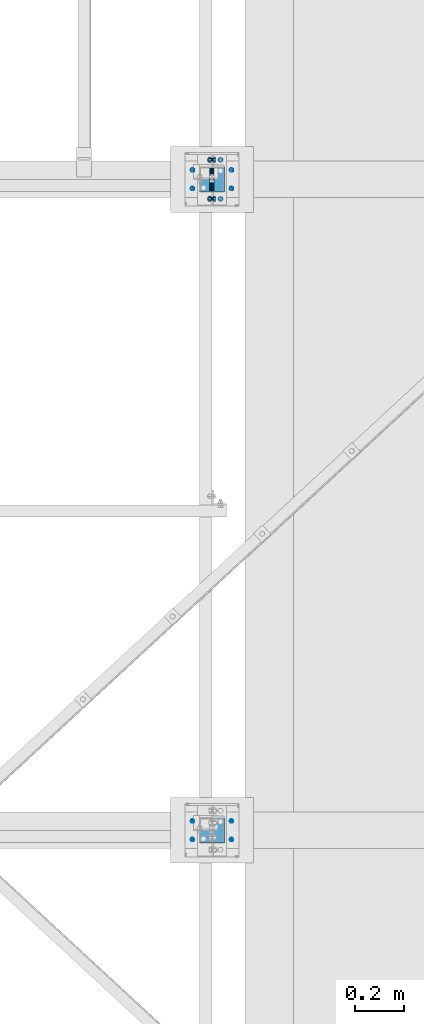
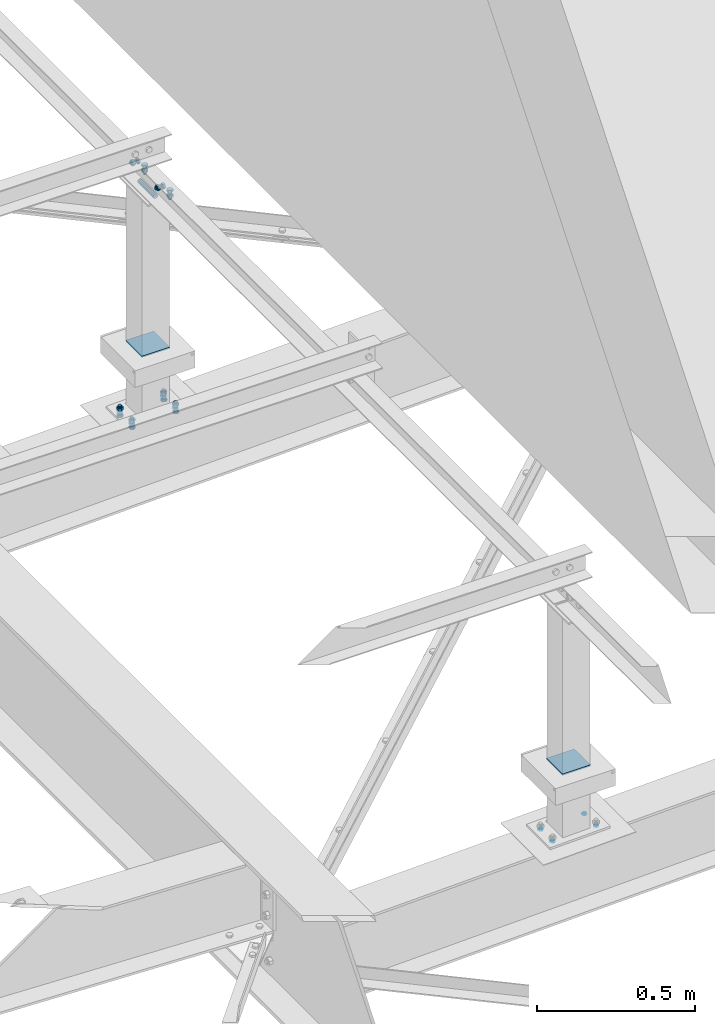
# One storey, part 180 of 3134: 8 mechanical fasteners, 6 elements without a shape of their own.
"""IFC2X3 building model written with IfcOpenShell, lengths in millimetres."""

from ifc_helpers import new_model, si_unit, frame, origin_with_axes, place, context, subcontext, project, spatial, faceted_brep, source, transform, mapped, material, type_object, element, aggregate, save


model = new_model("IFC2X3")

# Units and contexts
model_context = context("Model", 3, precision=1e-05, world=origin_with_axes())
body_context = subcontext(model_context, "Body", "Model", "MODEL_VIEW")
ifc_project = project(units=[si_unit("LENGTHUNIT", "METRE", prefix="MILLI"), si_unit("AREAUNIT", "SQUARE_METRE"), si_unit("VOLUMEUNIT", "CUBIC_METRE"), si_unit("MASSUNIT", "GRAM", prefix="KILO"), si_unit("TIMEUNIT", "SECOND"), si_unit("PLANEANGLEUNIT", "RADIAN"), si_unit("SOLIDANGLEUNIT", "STERADIAN"), si_unit("THERMODYNAMICTEMPERATUREUNIT", "DEGREE_CELSIUS"), si_unit("LUMINOUSINTENSITYUNIT", "LUMEN")], contexts=[model_context])

# Site, building, storey
site_placement = place(None, origin_with_axes())
site = spatial("IfcSite", under=ifc_project, at=site_placement, CompositionType="ELEMENT")
building_placement = place(site_placement, origin_with_axes())
building = spatial("IfcBuilding", under=site, at=building_placement, Name="Undefined", CompositionType="ELEMENT")
storey_placement = place(building_placement, origin_with_axes())
storey = spatial("IfcBuildingStorey", under=building, at=storey_placement, Name="Undefined", CompositionType="ELEMENT", Elevation=0.0)

# Assembly, mechanical fastener
assembly_1_placement = place(storey_placement, origin_with_axes())
assembly_1 = element("IfcElementAssembly", 1, at=assembly_1_placement, inside=storey, AssemblyPlace="NOTDEFINED", PredefinedType="RIGID_FRAME")
ifc_material_1 = material(Name="8.8")
mechanical_fastener_type = type_object("IfcMechanicalFastenerType", Name="Bolt assembly")
shared_shape_1 = source(origin_with_axes(), body_context, "Body", "Brep", [
    faceted_brep([(10.9696551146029, -14.0, 0.0), (5.48482755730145, -14.0, 9.5), (-5.48482755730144, -14.0, 9.5), (-10.9696551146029, -14.0, 1.34339530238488e-15), (-5.48482755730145, -14.0, -9.5), (5.48482755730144, -14.0, -9.50000000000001), (5.48482755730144, -6.0, -9.50000000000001), (-5.48482755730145, -6.0, -9.5), (-10.9696551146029, -6.0, 1.34339530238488e-15), (-5.48482755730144, -6.0, 9.5), (5.48482755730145, -6.0, 9.5), (10.9696551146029, -6.0, 0.0), (6.0, -6.0, 0.0), (5.19615242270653, -6.0, 3.00000000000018), (2.99999999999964, -6.0, 5.19615242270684), (-6.21801588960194e-13, -6.0, 6.0), (-3.00000000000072, -6.0, 5.19615242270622), (-5.19615242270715, -6.0, 2.9999999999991), (-6.0, -6.0, -1.24360317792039e-12), (-5.19615242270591, -6.0, -3.00000000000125), (-2.99999999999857, -6.0, -5.19615242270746), (1.85874342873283e-12, -6.0, -6.0), (3.00000000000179, -6.0, -5.1961524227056), (5.19615242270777, -6.0, -2.99999999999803), (5.19615242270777, 24.0, -2.99999999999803), (3.00000000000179, 24.0, -5.1961524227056), (1.85874342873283e-12, 24.0, -6.0), (-2.99999999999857, 24.0, -5.19615242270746), (-5.19615242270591, 24.0, -3.00000000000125), (-6.0, 24.0, -1.24360317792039e-12), (-5.19615242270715, 24.0, 2.9999999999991), (-3.00000000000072, 24.0, 5.19615242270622), (-6.21801588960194e-13, 24.0, 6.0), (2.99999999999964, 24.0, 5.19615242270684), (5.19615242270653, 24.0, 3.00000000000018), (6.0, 24.0, 0.0), (10.9696551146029, 6.00000000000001, 0.0), (5.48482755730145, 6.00000000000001, 9.5), (-5.48482755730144, 6.00000000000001, 9.5), (-10.9696551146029, 6.00000000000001, 1.34339530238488e-15), (-5.48482755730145, 6.00000000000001, -9.5), (5.48482755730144, 6.00000000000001, -9.50000000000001), (5.48482755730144, 16.0, -9.50000000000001), (-5.48482755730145, 16.0, -9.5), (-10.9696551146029, 16.0, 1.34339530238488e-15), (-5.48482755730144, 16.0, 9.5), (5.48482755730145, 16.0, 9.5), (10.9696551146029, 16.0, 0.0)], [[[0, 1, 2, 3, 4, 5]], [[6, 7, 8, 9, 10, 11]], [[0, 11, 10, 1]], [[1, 10, 9, 2]], [[2, 9, 8, 3]], [[3, 8, 7, 4]], [[4, 7, 6, 5]], [[5, 6, 11, 0]], [[12, 13, 14, 15, 16, 17, 18, 19, 20, 21, 22, 23]], [[24, 25, 26, 27, 28, 29, 30, 31, 32, 33, 34, 35]], [[12, 35, 34, 13]], [[13, 34, 33, 14]], [[14, 33, 32, 15]], [[15, 32, 31, 16]], [[16, 31, 30, 17]], [[17, 30, 29, 18]], [[18, 29, 28, 19]], [[19, 28, 27, 20]], [[20, 27, 26, 21]], [[21, 26, 25, 22]], [[22, 25, 24, 23]], [[23, 24, 35, 12]], [[36, 37, 38, 39, 40, 41]], [[42, 43, 44, 45, 46, 47]], [[36, 47, 46, 37]], [[37, 46, 45, 38]], [[38, 45, 44, 39]], [[39, 44, 43, 40]], [[40, 43, 42, 41]], [[41, 42, 47, 36]]]),
    faceted_brep([(7.0, -5.9, 0.0), (6.06217782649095, -5.9, 3.50000000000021), (3.49999999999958, -5.9, 6.06217782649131), (-7.25435187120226e-13, -5.9, 7.0), (-3.50000000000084, -5.9, 6.06217782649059), (-6.06217782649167, -5.9, 3.49999999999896), (-7.0, -5.9, -1.45087037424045e-12), (-6.06217782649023, -5.9, -3.50000000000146), (-3.49999999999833, -5.9, -6.06217782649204), (2.1685340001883e-12, -5.9, -7.0), (3.50000000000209, -5.9, -6.06217782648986), (6.0621778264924, -5.9, -3.4999999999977), (6.0621778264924, 0.0999999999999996, -3.4999999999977), (3.50000000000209, 0.0999999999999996, -6.06217782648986), (2.1685340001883e-12, 0.0999999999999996, -7.0), (-3.49999999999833, 0.0999999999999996, -6.06217782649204), (-6.06217782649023, 0.0999999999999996, -3.50000000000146), (-7.0, 0.0999999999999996, -1.45087037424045e-12), (-6.06217782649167, 0.0999999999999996, 3.49999999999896), (-3.50000000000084, 0.0999999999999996, 6.06217782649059), (-7.25435187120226e-13, 0.0999999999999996, 7.0), (3.49999999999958, 0.0999999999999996, 6.06217782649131), (6.06217782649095, 0.0999999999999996, 3.50000000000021), (7.0, 0.0999999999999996, 0.0), (7.0, -0.1, 0.0), (6.06217782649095, -0.1, 3.50000000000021), (3.49999999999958, -0.1, 6.06217782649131), (-7.25435187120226e-13, -0.1, 7.0), (-3.50000000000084, -0.1, 6.06217782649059), (-6.06217782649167, -0.1, 3.49999999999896), (-7.0, -0.1, -1.45087037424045e-12), (-6.06217782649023, -0.1, -3.50000000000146), (-3.49999999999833, -0.1, -6.06217782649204), (2.1685340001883e-12, -0.1, -7.0), (3.50000000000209, -0.1, -6.06217782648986), (6.0621778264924, -0.1, -3.4999999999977), (6.0621778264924, 6.00000000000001, -3.4999999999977), (3.50000000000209, 6.00000000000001, -6.06217782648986), (2.1685340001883e-12, 6.00000000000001, -7.0), (-3.49999999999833, 6.00000000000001, -6.06217782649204), (-6.06217782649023, 6.00000000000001, -3.50000000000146), (-7.0, 6.00000000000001, -1.45087037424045e-12), (-6.06217782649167, 6.00000000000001, 3.49999999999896), (-3.50000000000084, 6.00000000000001, 6.06217782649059), (-7.25435187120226e-13, 6.00000000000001, 7.0), (3.49999999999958, 6.00000000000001, 6.06217782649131), (6.06217782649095, 6.00000000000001, 3.50000000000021), (7.0, 6.00000000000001, 0.0)], [[[0, 1, 2, 3, 4, 5, 6, 7, 8, 9, 10, 11]], [[12, 13, 14, 15, 16, 17, 18, 19, 20, 21, 22, 23]], [[0, 23, 22, 1]], [[1, 22, 21, 2]], [[2, 21, 20, 3]], [[3, 20, 19, 4]], [[4, 19, 18, 5]], [[5, 18, 17, 6]], [[6, 17, 16, 7]], [[7, 16, 15, 8]], [[8, 15, 14, 9]], [[9, 14, 13, 10]], [[10, 13, 12, 11]], [[11, 12, 23, 0]], [[24, 25, 26, 27, 28, 29, 30, 31, 32, 33, 34, 35]], [[36, 37, 38, 39, 40, 41, 42, 43, 44, 45, 46, 47]], [[24, 47, 46, 25]], [[25, 46, 45, 26]], [[26, 45, 44, 27]], [[27, 44, 43, 28]], [[28, 43, 42, 29]], [[29, 42, 41, 30]], [[30, 41, 40, 31]], [[31, 40, 39, 32]], [[32, 39, 38, 33]], [[33, 38, 37, 34]], [[34, 37, 36, 35]], [[35, 36, 47, 24]]]),
])
mechanical_fastener_1_placement = place(assembly_1_placement, frame((10440.0, 37501.25, 4265.0), z_axis=(-1.0, 0.0, 0.0), x_axis=(0.0, 1.0, 0.0)))
mechanical_fastener_1 = element("IfcMechanicalFastener", 2, at=mechanical_fastener_1_placement, type_object=mechanical_fastener_type, material=ifc_material_1, Name="Bolt assembly", NominalDiameter=12.0, NominalLength=30.0, context=body_context, shape_type="MappedRepresentation", body=[
    mapped(shared_shape_1, transform((0.0, 0.0, 0.0))),
    mapped(shared_shape_1, transform((160.0, 0.0, 0.0))),
])

assembly_2_placement = place(storey_placement, origin_with_axes())
assembly_2 = element("IfcElementAssembly", 3, at=assembly_2_placement, inside=storey, AssemblyPlace="NOTDEFINED", PredefinedType="RIGID_FRAME")
shared_shape_2 = source(origin_with_axes(), body_context, "Body", "Brep", [
    faceted_brep([(10.9696551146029, -14.0, 0.0), (5.48482755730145, -14.0, 9.5), (-5.48482755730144, -14.0, 9.5), (-10.9696551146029, -14.0, 1.34339530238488e-15), (-5.48482755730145, -14.0, -9.5), (5.48482755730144, -14.0, -9.50000000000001), (5.48482755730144, -6.0, -9.50000000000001), (-5.48482755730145, -6.0, -9.5), (-10.9696551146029, -6.0, 1.34339530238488e-15), (-5.48482755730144, -6.0, 9.5), (5.48482755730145, -6.0, 9.5), (10.9696551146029, -6.0, 0.0), (6.0, -6.0, 0.0), (5.19615242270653, -6.0, 3.00000000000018), (2.99999999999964, -6.0, 5.19615242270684), (-6.21801588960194e-13, -6.0, 6.0), (-3.00000000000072, -6.0, 5.19615242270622), (-5.19615242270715, -6.0, 2.9999999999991), (-6.0, -6.0, -1.24360317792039e-12), (-5.19615242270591, -6.0, -3.00000000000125), (-2.99999999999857, -6.0, -5.19615242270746), (1.85874342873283e-12, -6.0, -6.0), (3.00000000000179, -6.0, -5.1961524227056), (5.19615242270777, -6.0, -2.99999999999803), (5.19615242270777, 19.0, -2.99999999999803), (3.00000000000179, 19.0, -5.1961524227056), (1.85874342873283e-12, 19.0, -6.0), (-2.99999999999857, 19.0, -5.19615242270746), (-5.19615242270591, 19.0, -3.00000000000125), (-6.0, 19.0, -1.24360317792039e-12), (-5.19615242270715, 19.0, 2.9999999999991), (-3.00000000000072, 19.0, 5.19615242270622), (-6.21801588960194e-13, 19.0, 6.0), (2.99999999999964, 19.0, 5.19615242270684), (5.19615242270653, 19.0, 3.00000000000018), (6.0, 19.0, 0.0), (10.9696551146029, 4.00000000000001, 0.0), (5.48482755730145, 4.00000000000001, 9.5), (-5.48482755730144, 4.00000000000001, 9.5), (-10.9696551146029, 4.00000000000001, 1.34339530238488e-15), (-5.48482755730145, 4.00000000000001, -9.5), (5.48482755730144, 4.00000000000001, -9.50000000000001), (5.48482755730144, 14.0, -9.50000000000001), (-5.48482755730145, 14.0, -9.5), (-10.9696551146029, 14.0, 1.34339530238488e-15), (-5.48482755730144, 14.0, 9.5), (5.48482755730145, 14.0, 9.5), (10.9696551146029, 14.0, 0.0)], [[[0, 1, 2, 3, 4, 5]], [[6, 7, 8, 9, 10, 11]], [[0, 11, 10, 1]], [[1, 10, 9, 2]], [[2, 9, 8, 3]], [[3, 8, 7, 4]], [[4, 7, 6, 5]], [[5, 6, 11, 0]], [[12, 13, 14, 15, 16, 17, 18, 19, 20, 21, 22, 23]], [[24, 25, 26, 27, 28, 29, 30, 31, 32, 33, 34, 35]], [[12, 35, 34, 13]], [[13, 34, 33, 14]], [[14, 33, 32, 15]], [[15, 32, 31, 16]], [[16, 31, 30, 17]], [[17, 30, 29, 18]], [[18, 29, 28, 19]], [[19, 28, 27, 20]], [[20, 27, 26, 21]], [[21, 26, 25, 22]], [[22, 25, 24, 23]], [[23, 24, 35, 12]], [[36, 37, 38, 39, 40, 41]], [[42, 43, 44, 45, 46, 47]], [[36, 47, 46, 37]], [[37, 46, 45, 38]], [[38, 45, 44, 39]], [[39, 44, 43, 40]], [[40, 43, 42, 41]], [[41, 42, 47, 36]]]),
    faceted_brep([(7.0, -0.1, 0.0), (6.06217782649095, -0.1, 3.50000000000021), (3.49999999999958, -0.1, 6.06217782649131), (-7.25435187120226e-13, -0.1, 7.0), (-3.50000000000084, -0.1, 6.06217782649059), (-6.06217782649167, -0.1, 3.49999999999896), (-7.0, -0.1, -1.45087037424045e-12), (-6.06217782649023, -0.1, -3.50000000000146), (-3.49999999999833, -0.1, -6.06217782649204), (2.1685340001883e-12, -0.1, -7.0), (3.50000000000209, -0.1, -6.06217782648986), (6.0621778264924, -0.1, -3.4999999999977), (6.0621778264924, 4.00000000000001, -3.4999999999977), (3.50000000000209, 4.00000000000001, -6.06217782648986), (2.1685340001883e-12, 4.00000000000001, -7.0), (-3.49999999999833, 4.00000000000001, -6.06217782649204), (-6.06217782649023, 4.00000000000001, -3.50000000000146), (-7.0, 4.00000000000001, -1.45087037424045e-12), (-6.06217782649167, 4.00000000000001, 3.49999999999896), (-3.50000000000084, 4.00000000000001, 6.06217782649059), (-7.25435187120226e-13, 4.00000000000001, 7.0), (3.49999999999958, 4.00000000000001, 6.06217782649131), (6.06217782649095, 4.00000000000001, 3.50000000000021), (7.0, 4.00000000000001, 0.0), (7.0, -5.9, 0.0), (6.06217782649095, -5.9, 3.50000000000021), (3.49999999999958, -5.9, 6.06217782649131), (-7.25435187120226e-13, -5.9, 7.0), (-3.50000000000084, -5.9, 6.06217782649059), (-6.06217782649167, -5.9, 3.49999999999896), (-7.0, -5.9, -1.45087037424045e-12), (-6.06217782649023, -5.9, -3.50000000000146), (-3.49999999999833, -5.9, -6.06217782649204), (2.1685340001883e-12, -5.9, -7.0), (3.50000000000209, -5.9, -6.06217782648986), (6.0621778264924, -5.9, -3.4999999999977), (6.0621778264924, 0.0999999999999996, -3.4999999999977), (3.50000000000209, 0.0999999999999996, -6.06217782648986), (2.1685340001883e-12, 0.0999999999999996, -7.0), (-3.49999999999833, 0.0999999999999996, -6.06217782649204), (-6.06217782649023, 0.0999999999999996, -3.50000000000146), (-7.0, 0.0999999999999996, -1.45087037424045e-12), (-6.06217782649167, 0.0999999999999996, 3.49999999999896), (-3.50000000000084, 0.0999999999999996, 6.06217782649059), (-7.25435187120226e-13, 0.0999999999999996, 7.0), (3.49999999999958, 0.0999999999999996, 6.06217782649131), (6.06217782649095, 0.0999999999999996, 3.50000000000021), (7.0, 0.0999999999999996, 0.0)], [[[0, 1, 2, 3, 4, 5, 6, 7, 8, 9, 10, 11]], [[12, 13, 14, 15, 16, 17, 18, 19, 20, 21, 22, 23]], [[0, 23, 22, 1]], [[1, 22, 21, 2]], [[2, 21, 20, 3]], [[3, 20, 19, 4]], [[4, 19, 18, 5]], [[5, 18, 17, 6]], [[6, 17, 16, 7]], [[7, 16, 15, 8]], [[8, 15, 14, 9]], [[9, 14, 13, 10]], [[10, 13, 12, 11]], [[11, 12, 23, 0]], [[24, 25, 26, 27, 28, 29, 30, 31, 32, 33, 34, 35]], [[36, 37, 38, 39, 40, 41, 42, 43, 44, 45, 46, 47]], [[24, 47, 46, 25]], [[25, 46, 45, 26]], [[26, 45, 44, 27]], [[27, 44, 43, 28]], [[28, 43, 42, 29]], [[29, 42, 41, 30]], [[30, 41, 40, 31]], [[31, 40, 39, 32]], [[32, 39, 38, 33]], [[33, 38, 37, 34]], [[34, 37, 36, 35]], [[35, 36, 47, 24]]]),
])
mechanical_fastener_2_placement = place(assembly_2_placement, frame((10405.0, 37501.25, 4300.0), z_axis=(0.0, 0.0, 1.0), x_axis=(0.0, 1.0, 0.0)))
mechanical_fastener_2 = element("IfcMechanicalFastener", 4, at=mechanical_fastener_2_placement, type_object=mechanical_fastener_type, material=ifc_material_1, Name="Bolt assembly", NominalDiameter=12.0, NominalLength=25.0, context=body_context, shape_type="MappedRepresentation", body=[
    mapped(shared_shape_2, transform((0.0, 0.0, 0.0))),
    mapped(shared_shape_2, transform((160.0, 0.0, 0.0))),
])
aggregate(assembly_2, [mechanical_fastener_2])

assembly_3_placement = place(storey_placement, origin_with_axes())
assembly_3 = element("IfcElementAssembly", 5, at=assembly_3_placement, inside=storey, Name="300", AssemblyPlace="NOTDEFINED", PredefinedType="RIGID_FRAME")
shared_shape_3 = source(origin_with_axes(), body_context, "Body", "Brep", [
    faceted_brep([(10.9696551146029, -4.1984682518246, 0.0), (5.48482755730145, -4.1984682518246, 9.5), (-5.48482755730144, -4.1984682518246, 9.5), (-10.9696551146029, -4.1984682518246, 1.34339530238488e-15), (-5.48482755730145, -4.1984682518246, -9.5), (5.48482755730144, -4.1984682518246, -9.50000000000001), (5.48482755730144, 3.8015317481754, -9.50000000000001), (-5.48482755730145, 3.8015317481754, -9.5), (-10.9696551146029, 3.8015317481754, 1.34339530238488e-15), (-5.48482755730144, 3.8015317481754, 9.5), (5.48482755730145, 3.8015317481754, 9.5), (10.9696551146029, 3.8015317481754, 0.0), (6.0, 3.8015317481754, 0.0), (5.19615242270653, 3.8015317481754, 3.00000000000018), (2.99999999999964, 3.8015317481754, 5.19615242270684), (-6.21801588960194e-13, 3.8015317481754, 6.0), (-3.00000000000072, 3.8015317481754, 5.19615242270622), (-5.19615242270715, 3.8015317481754, 2.9999999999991), (-6.0, 3.8015317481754, -1.24360317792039e-12), (-5.19615242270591, 3.8015317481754, -3.00000000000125), (-2.99999999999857, 3.8015317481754, -5.19615242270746), (1.85874342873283e-12, 3.8015317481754, -6.0), (3.00000000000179, 3.8015317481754, -5.1961524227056), (5.19615242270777, 3.8015317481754, -2.99999999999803), (5.19615242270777, 38.8015317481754, -2.99999999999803), (3.00000000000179, 38.8015317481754, -5.1961524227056), (1.85874342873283e-12, 38.8015317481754, -6.0), (-2.99999999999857, 38.8015317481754, -5.19615242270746), (-5.19615242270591, 38.8015317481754, -3.00000000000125), (-6.0, 38.8015317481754, -1.24360317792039e-12), (-5.19615242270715, 38.8015317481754, 2.9999999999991), (-3.00000000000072, 38.8015317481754, 5.19615242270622), (-6.21801588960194e-13, 38.8015317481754, 6.0), (2.99999999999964, 38.8015317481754, 5.19615242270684), (5.19615242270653, 38.8015317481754, 3.00000000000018), (6.0, 38.8015317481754, 0.0), (10.9696551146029, 23.0039050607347, 0.0), (5.48482755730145, 23.0039050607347, 9.5), (-5.48482755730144, 23.0039050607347, 9.5), (-10.9696551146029, 23.0039050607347, 1.34339530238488e-15), (-5.48482755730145, 23.0039050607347, -9.5), (5.48482755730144, 23.0039050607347, -9.50000000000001), (5.48482755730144, 33.0039050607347, -9.50000000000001), (-5.48482755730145, 33.0039050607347, -9.5), (-10.9696551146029, 33.0039050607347, 1.34339530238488e-15), (-5.48482755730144, 33.0039050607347, 9.5), (5.48482755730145, 33.0039050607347, 9.5), (10.9696551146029, 33.0039050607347, 0.0)], [[[0, 1, 2, 3, 4, 5]], [[6, 7, 8, 9, 10, 11]], [[0, 11, 10, 1]], [[1, 10, 9, 2]], [[2, 9, 8, 3]], [[3, 8, 7, 4]], [[4, 7, 6, 5]], [[5, 6, 11, 0]], [[12, 13, 14, 15, 16, 17, 18, 19, 20, 21, 22, 23]], [[24, 25, 26, 27, 28, 29, 30, 31, 32, 33, 34, 35]], [[12, 35, 34, 13]], [[13, 34, 33, 14]], [[14, 33, 32, 15]], [[15, 32, 31, 16]], [[16, 31, 30, 17]], [[17, 30, 29, 18]], [[18, 29, 28, 19]], [[19, 28, 27, 20]], [[20, 27, 26, 21]], [[21, 26, 25, 22]], [[22, 25, 24, 23]], [[23, 24, 35, 12]], [[36, 37, 38, 39, 40, 41]], [[42, 43, 44, 45, 46, 47]], [[36, 47, 46, 37]], [[37, 46, 45, 38]], [[38, 45, 44, 39]], [[39, 44, 43, 40]], [[40, 43, 42, 41]], [[41, 42, 47, 36]]]),
    faceted_brep([(7.0, 14.9039050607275, 0.0), (6.06217782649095, 14.9039050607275, 3.50000000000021), (3.49999999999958, 14.9039050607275, 6.06217782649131), (-7.25435187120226e-13, 14.9039050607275, 7.0), (-3.50000000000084, 14.9039050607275, 6.06217782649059), (-6.06217782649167, 14.9039050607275, 3.49999999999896), (-7.0, 14.9039050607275, -1.45087037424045e-12), (-6.06217782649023, 14.9039050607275, -3.50000000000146), (-3.49999999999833, 14.9039050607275, -6.06217782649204), (2.1685340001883e-12, 14.9039050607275, -7.0), (3.50000000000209, 14.9039050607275, -6.06217782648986), (6.0621778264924, 14.9039050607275, -3.4999999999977), (6.0621778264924, 23.0039050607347, -3.4999999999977), (3.50000000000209, 23.0039050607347, -6.06217782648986), (2.1685340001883e-12, 23.0039050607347, -7.0), (-3.49999999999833, 23.0039050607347, -6.06217782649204), (-6.06217782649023, 23.0039050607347, -3.50000000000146), (-7.0, 23.0039050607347, -1.45087037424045e-12), (-6.06217782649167, 23.0039050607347, 3.49999999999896), (-3.50000000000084, 23.0039050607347, 6.06217782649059), (-7.25435187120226e-13, 23.0039050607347, 7.0), (3.49999999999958, 23.0039050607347, 6.06217782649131), (6.06217782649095, 23.0039050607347, 3.50000000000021), (7.0, 23.0039050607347, 0.0), (7.0, 3.9015317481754, 0.0), (6.06217782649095, 3.9015317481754, 3.50000000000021), (3.49999999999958, 3.9015317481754, 6.06217782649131), (-7.25435187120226e-13, 3.9015317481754, 7.0), (-3.50000000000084, 3.9015317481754, 6.06217782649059), (-6.06217782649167, 3.9015317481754, 3.49999999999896), (-7.0, 3.9015317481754, -1.45087037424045e-12), (-6.06217782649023, 3.9015317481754, -3.50000000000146), (-3.49999999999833, 3.9015317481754, -6.06217782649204), (2.1685340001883e-12, 3.9015317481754, -7.0), (3.50000000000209, 3.9015317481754, -6.06217782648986), (6.0621778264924, 3.9015317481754, -3.4999999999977), (6.0621778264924, 13.1015315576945, -3.4999999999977), (3.50000000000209, 13.1015315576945, -6.06217782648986), (2.1685340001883e-12, 13.1015315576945, -7.0), (-3.49999999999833, 13.1015315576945, -6.06217782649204), (-6.06217782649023, 13.1015315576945, -3.50000000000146), (-7.0, 13.1015315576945, -1.45087037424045e-12), (-6.06217782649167, 13.1015315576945, 3.49999999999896), (-3.50000000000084, 13.1015315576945, 6.06217782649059), (-7.25435187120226e-13, 13.1015315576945, 7.0), (3.49999999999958, 13.1015315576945, 6.06217782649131), (6.06217782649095, 13.1015315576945, 3.50000000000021), (7.0, 13.1015315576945, 0.0)], [[[0, 1, 2, 3, 4, 5, 6, 7, 8, 9, 10, 11]], [[12, 13, 14, 15, 16, 17, 18, 19, 20, 21, 22, 23]], [[0, 23, 22, 1]], [[1, 22, 21, 2]], [[2, 21, 20, 3]], [[3, 20, 19, 4]], [[4, 19, 18, 5]], [[5, 18, 17, 6]], [[6, 17, 16, 7]], [[7, 16, 15, 8]], [[8, 15, 14, 9]], [[9, 14, 13, 10]], [[10, 13, 12, 11]], [[11, 12, 23, 0]], [[24, 25, 26, 27, 28, 29, 30, 31, 32, 33, 34, 35]], [[36, 37, 38, 39, 40, 41, 42, 43, 44, 45, 46, 47]], [[24, 47, 46, 25]], [[25, 46, 45, 26]], [[26, 45, 44, 27]], [[27, 44, 43, 28]], [[28, 43, 42, 29]], [[29, 42, 41, 30]], [[30, 41, 40, 31]], [[31, 40, 39, 32]], [[32, 39, 38, 33]], [[33, 38, 37, 34]], [[34, 37, 36, 35]], [[35, 36, 47, 24]]]),
])
mechanical_fastener_3_placement = place(assembly_3_placement, frame((10405.7748812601, 37543.25, 3374.2272055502), z_axis=(0.999519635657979, 0.0, 0.0309919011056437), x_axis=(0.0, 1.0, 0.0)))
mechanical_fastener_3 = element("IfcMechanicalFastener", 6, at=mechanical_fastener_3_placement, type_object=mechanical_fastener_type, material=ifc_material_1, Name="Bolt assembly", NominalDiameter=12.0, NominalLength=35.0, context=body_context, shape_type="MappedRepresentation", body=[
    mapped(shared_shape_3, transform((0.0, -5.32963895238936e-10, -79.9999999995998))),
    mapped(shared_shape_3, transform((76.0, -5.32963895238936e-10, -79.9999999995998))),
    mapped(shared_shape_3, transform((0.0, 5.3114490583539e-10, 79.9999999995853))),
    mapped(shared_shape_3, transform((76.0, 5.3114490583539e-10, 79.9999999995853))),
])
aggregate(assembly_3, [mechanical_fastener_3])

assembly_4_placement = place(storey_placement, origin_with_axes())
assembly_4 = element("IfcElementAssembly", 7, at=assembly_4_placement, inside=storey, AssemblyPlace="NOTDEFINED", PredefinedType="RIGID_FRAME")
shared_shape_4 = source(origin_with_axes(), body_context, "Body", "Brep", [
    faceted_brep([(7.0, 13.0000253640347, 0.0), (6.06217782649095, 13.0000253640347, 3.50000000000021), (3.49999999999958, 13.0000253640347, 6.06217782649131), (-7.25435187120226e-13, 13.0000253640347, 7.0), (-3.50000000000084, 13.0000253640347, 6.06217782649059), (-6.06217782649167, 13.0000253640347, 3.49999999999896), (-7.0, 13.0000253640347, -1.45087037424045e-12), (-6.06217782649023, 13.0000253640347, -3.50000000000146), (-3.49999999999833, 13.0000253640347, -6.06217782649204), (2.1685340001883e-12, 13.0000253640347, -7.0), (3.50000000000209, 13.0000253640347, -6.06217782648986), (6.0621778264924, 13.0000253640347, -3.4999999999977), (6.0621778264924, 15.0999999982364, -3.4999999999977), (3.50000000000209, 15.0999999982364, -6.06217782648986), (2.1685340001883e-12, 15.0999999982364, -7.0), (-3.49999999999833, 15.0999999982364, -6.06217782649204), (-6.06217782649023, 15.0999999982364, -3.50000000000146), (-7.0, 15.0999999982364, -1.45087037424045e-12), (-6.06217782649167, 15.0999999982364, 3.49999999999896), (-3.50000000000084, 15.0999999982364, 6.06217782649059), (-7.25435187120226e-13, 15.0999999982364, 7.0), (3.49999999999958, 15.0999999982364, 6.06217782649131), (6.06217782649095, 15.0999999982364, 3.50000000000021), (7.0, 15.0999999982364, 0.0)], [[[0, 1, 2, 3, 4, 5, 6, 7, 8, 9, 10, 11]], [[12, 13, 14, 15, 16, 17, 18, 19, 20, 21, 22, 23]], [[0, 23, 22, 1]], [[1, 22, 21, 2]], [[2, 21, 20, 3]], [[3, 20, 19, 4]], [[4, 19, 18, 5]], [[5, 18, 17, 6]], [[6, 17, 16, 7]], [[7, 16, 15, 8]], [[8, 15, 14, 9]], [[9, 14, 13, 10]], [[10, 13, 12, 11]], [[11, 12, 23, 0]]]),
])
mechanical_fastener_4_placement = place(assembly_4_placement, frame((10405.7748812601, 34874.5, 3374.2272055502), z_axis=(0.999519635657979, 0.0, 0.0309919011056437), x_axis=(0.0, 1.0, 0.0)))
mechanical_fastener_4 = element("IfcMechanicalFastener", 8, at=mechanical_fastener_4_placement, type_object=mechanical_fastener_type, material=ifc_material_1, Name="Bolt assembly", NominalDiameter=12.0, NominalLength=2.0, context=body_context, shape_type="MappedRepresentation", body=[
    mapped(shared_shape_4, transform((0.0, -5.32963895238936e-10, -79.9999999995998))),
    mapped(shared_shape_4, transform((76.0, -5.32963895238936e-10, -79.9999999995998))),
    mapped(shared_shape_4, transform((0.0, 5.3114490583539e-10, 79.9999999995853))),
    mapped(shared_shape_4, transform((76.0, 5.3114490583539e-10, 79.9999999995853))),
])
aggregate(assembly_4, [mechanical_fastener_4])

assembly_5_placement = place(storey_placement, origin_with_axes())
assembly_5 = element("IfcElementAssembly", 9, at=assembly_5_placement, inside=storey, AssemblyPlace="NOTDEFINED", PredefinedType="RIGID_FRAME")
mechanical_fastener_5_placement = place(assembly_5_placement, frame((10405.7748812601, 37543.25, 3374.2272055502), z_axis=(0.999519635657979, 0.0, 0.0309919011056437), x_axis=(0.0, 1.0, 0.0)))
mechanical_fastener_5 = element("IfcMechanicalFastener", 10, at=mechanical_fastener_5_placement, type_object=mechanical_fastener_type, material=ifc_material_1, Name="Bolt assembly", NominalDiameter=12.0, NominalLength=2.0, context=body_context, shape_type="MappedRepresentation", body=[
    mapped(shared_shape_4, transform((0.0, -5.32963895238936e-10, -79.9999999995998))),
    mapped(shared_shape_4, transform((76.0, -5.32963895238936e-10, -79.9999999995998))),
    mapped(shared_shape_4, transform((0.0, 5.3114490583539e-10, 79.9999999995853))),
    mapped(shared_shape_4, transform((76.0, 5.3114490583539e-10, 79.9999999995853))),
])
aggregate(assembly_5, [mechanical_fastener_5])

# Mechanical fastener
shared_shape_5 = source(origin_with_axes(), body_context, "Body", "Brep", [
    faceted_brep([(9.0, -50.0, 0.0), (7.79422863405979, -50.0, 4.50000000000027), (4.49999999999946, -50.0, 7.79422863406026), (-9.3270238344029e-13, -50.0, 9.0), (-4.50000000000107, -50.0, 7.79422863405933), (-7.79422863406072, -50.0, 4.49999999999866), (-9.0, -50.0, -1.86540476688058e-12), (-7.79422863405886, -50.0, -4.50000000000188), (-4.49999999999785, -50.0, -7.79422863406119), (2.78811514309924e-12, -50.0, -9.0), (4.50000000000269, -50.0, -7.7942286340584), (7.79422863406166, -50.0, -4.49999999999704), (7.79422863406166, 50.1, -4.49999999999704), (4.50000000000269, 50.1, -7.7942286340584), (2.78811514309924e-12, 50.1, -9.0), (-4.49999999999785, 50.1, -7.79422863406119), (-7.79422863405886, 50.1, -4.50000000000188), (-9.0, 50.1, -1.86540476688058e-12), (-7.79422863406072, 50.1, 4.49999999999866), (-4.50000000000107, 50.1, 7.79422863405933), (-9.3270238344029e-13, 50.1, 9.0), (4.49999999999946, 50.1, 7.79422863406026), (7.79422863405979, 50.1, 4.50000000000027), (9.0, 50.1, 0.0)], [[[0, 1, 2, 3, 4, 5, 6, 7, 8, 9, 10, 11]], [[12, 13, 14, 15, 16, 17, 18, 19, 20, 21, 22, 23]], [[0, 23, 22, 1]], [[1, 22, 21, 2]], [[2, 21, 20, 3]], [[3, 20, 19, 4]], [[4, 19, 18, 5]], [[5, 18, 17, 6]], [[6, 17, 16, 7]], [[7, 16, 15, 8]], [[8, 15, 14, 9]], [[9, 14, 13, 10]], [[10, 13, 12, 11]], [[11, 12, 23, 0]]]),
])
mechanical_fastener_6_placement = place(assembly_1_placement, frame((10405.0, 37581.25, 4245.0), z_axis=(-1.0, 0.0, 0.0), x_axis=(0.0, 0.0, 1.0)))
mechanical_fastener_6 = element("IfcMechanicalFastener", 11, at=mechanical_fastener_6_placement, type_object=mechanical_fastener_type, material=ifc_material_1, Name="Bolt assembly", NominalDiameter=16.0, NominalLength=100.0, context=body_context, shape_type="MappedRepresentation", body=[
    mapped(shared_shape_5, transform((0.0, 0.0, 0.0))),
])

# Assembly, mechanical fastener
assembly_6_placement = place(storey_placement, origin_with_axes())
assembly_6 = element("IfcElementAssembly", 12, at=assembly_6_placement, inside=storey, AssemblyPlace="NOTDEFINED", PredefinedType="RIGID_FRAME")
ifc_material_2 = material(Name="6.8")
shared_shape_6 = source(origin_with_axes(), body_context, "Body", "Brep", [
    faceted_brep([(51.5, 1.36424205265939e-12, 50.0), (51.3858192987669, 1.36424205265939e-12, 50.5740251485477), (51.0606601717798, 1.36424205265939e-12, 51.0606601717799), (50.5740251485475, 1.36424205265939e-12, 51.385819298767), (-50.0000000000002, 1.36424205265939e-12, 51.5), (-50.7500000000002, 1.36424205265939e-12, 51.2990381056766), (-51.2990381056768, 1.36424205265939e-12, 50.7499999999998), (-51.5, 1.36424205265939e-12, 49.9999999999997), (-51.5, 1.36424205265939e-12, -50.0000000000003), (-51.2990381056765, 1.36424205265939e-12, -50.7500000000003), (-50.7499999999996, 1.36424205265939e-12, -51.2990381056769), (-49.9999999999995, 1.36424205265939e-12, -51.5), (50.0000000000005, 1.36424205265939e-12, -51.5), (50.7500000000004, 1.36424205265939e-12, -51.2990381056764), (51.2990381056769, 1.36424205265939e-12, -50.7499999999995), (51.5, 1.36424205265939e-12, -49.9999999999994), (51.5, 5.10000000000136, -49.9999999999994), (51.2990381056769, 5.10000000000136, -50.7499999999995), (50.7500000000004, 5.10000000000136, -51.2990381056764), (50.0000000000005, 5.10000000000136, -51.5), (-49.9999999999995, 5.10000000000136, -51.5), (-50.7499999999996, 5.10000000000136, -51.2990381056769), (-51.2990381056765, 5.10000000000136, -50.7500000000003), (-51.5, 5.10000000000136, -50.0000000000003), (-51.5, 5.10000000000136, 49.9999999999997), (-51.2990381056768, 5.10000000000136, 50.7499999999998), (-50.7500000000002, 5.10000000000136, 51.2990381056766), (-50.0000000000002, 5.10000000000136, 51.5), (50.5740251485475, 5.10000000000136, 51.385819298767), (51.0606601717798, 5.10000000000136, 51.0606601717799), (51.3858192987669, 5.10000000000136, 50.5740251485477), (51.5, 5.10000000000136, 50.0)], [[[0, 1, 2, 3, 4, 5, 6, 7, 8, 9, 10, 11, 12, 13, 14, 15]], [[16, 17, 18, 19, 20, 21, 22, 23, 24, 25, 26, 27, 28, 29, 30, 31]], [[0, 31, 30, 1]], [[1, 30, 29, 2]], [[2, 29, 28, 3]], [[3, 28, 27, 4]], [[4, 27, 26, 5]], [[5, 26, 25, 6]], [[6, 25, 24, 7]], [[7, 24, 23, 8]], [[8, 23, 22, 9]], [[9, 22, 21, 10]], [[10, 21, 20, 11]], [[11, 20, 19, 12]], [[12, 19, 18, 13]], [[13, 18, 17, 14]], [[14, 17, 16, 15]], [[15, 16, 31, 0]]]),
])
mechanical_fastener_7_placement = place(assembly_6_placement, frame((10405.0, 34912.5, 3643.81), z_axis=(0.0, -1.0, 0.0), x_axis=(-1.0, 0.0, 0.0)))
mechanical_fastener_7 = element("IfcMechanicalFastener", 13, at=mechanical_fastener_7_placement, type_object=mechanical_fastener_type, material=ifc_material_2, Name="Bolt assembly", NominalDiameter=10.0, NominalLength=5.0, context=body_context, shape_type="MappedRepresentation", body=[
    mapped(shared_shape_6, transform((0.0, 0.0, 0.0))),
])
aggregate(assembly_6, [mechanical_fastener_7])

# Mechanical fastener
mechanical_fastener_8_placement = place(assembly_1_placement, frame((10405.0, 37581.25, 3643.81), z_axis=(0.0, -1.0, 0.0), x_axis=(-1.0, 0.0, 0.0)))
mechanical_fastener_8 = element("IfcMechanicalFastener", 14, at=mechanical_fastener_8_placement, type_object=mechanical_fastener_type, material=ifc_material_2, Name="Bolt assembly", NominalDiameter=10.0, NominalLength=5.0, context=body_context, shape_type="MappedRepresentation", body=[
    mapped(shared_shape_6, transform((0.0, 0.0, 0.0))),
])

aggregate(assembly_1, [mechanical_fastener_8, mechanical_fastener_6, mechanical_fastener_1])

save(model, "model.ifc")
